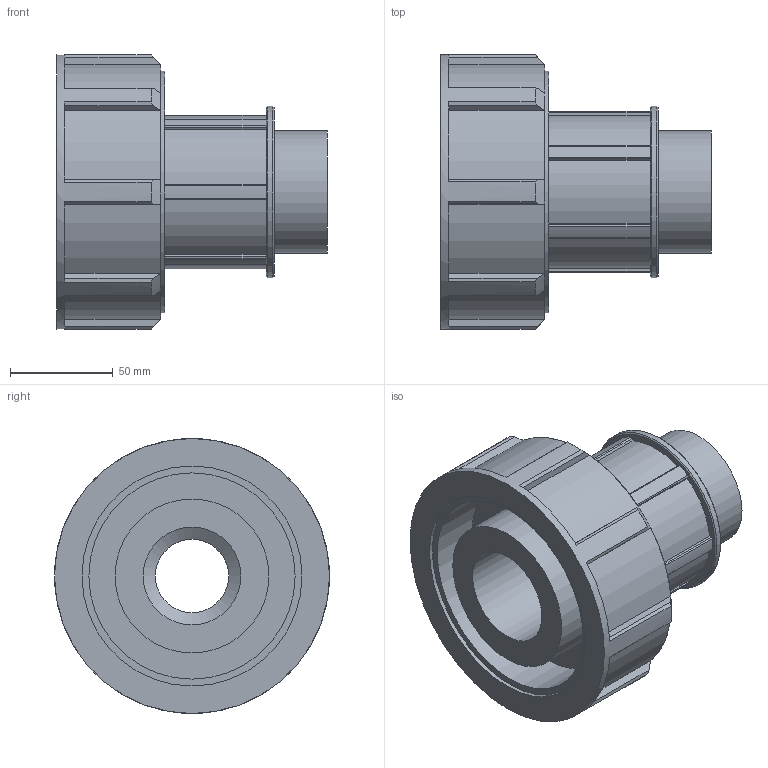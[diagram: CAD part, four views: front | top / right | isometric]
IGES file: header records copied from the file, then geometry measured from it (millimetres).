
Global section: file name: 0725060750200A.ipt; native system: Autodesk Inventor 2015; preprocessor: unknown; author: KIM; date: 20170608.042218; units: millimetre
Bounding box: 132 x 134 x 134 mm (x, y, z)
Volume: 643282.7 mm3; surface area: 113977.3 mm2
Topology: 1 solids, 1 shells, 108 faces, 300 edges, 202 vertices
Faces by surface type: plane 74, cylinder 25, revolution 6, cone 3
Full cylindrical faces by diameter (mm): 59.614 x1, 75 x1, 83.46 x1, 117.92 x1, 134 x1
